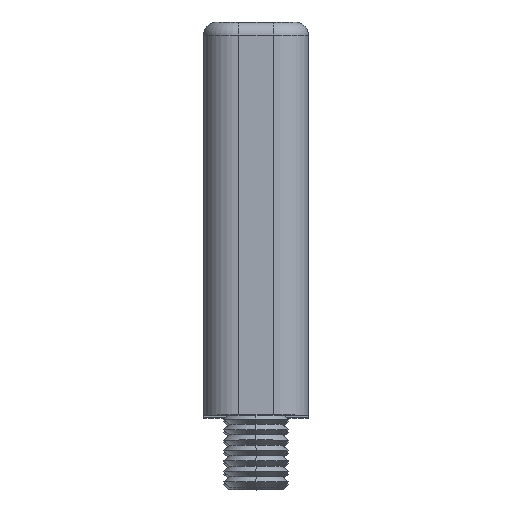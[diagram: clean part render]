
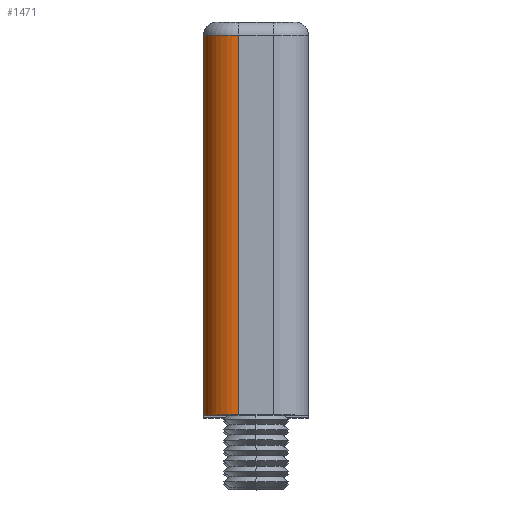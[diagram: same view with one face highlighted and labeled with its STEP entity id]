
A CAD part, top view. The second image highlights one B-rep face of the part: STEP entity #1471.
In plain terms, the highlighted cylindrical face has radius 2.667 mm (diameter 5.333 mm), a partial arc.
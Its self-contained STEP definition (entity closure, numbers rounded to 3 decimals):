
#460 = ORIENTED_EDGE ( 'NONE', *, *, #1152, .T. ) ;
#474 = CARTESIAN_POINT ( 'NONE',  ( -7.5, 29., -1.333 ) ) ;
#518 = VERTEX_POINT ( 'NONE', #5470 ) ;
#649 = ORIENTED_EDGE ( 'NONE', *, *, #1644, .T. ) ;
#757 = FACE_OUTER_BOUND ( 'NONE', #3539, .T. ) ;
#797 = DIRECTION ( 'NONE',  ( 0., 1., 0. ) ) ;
#850 = VECTOR ( 'NONE', #3913, 1000. ) ;
#1152 = EDGE_CURVE ( 'NONE', #2372, #518, #4061, .T. ) ;
#1161 = AXIS2_PLACEMENT_3D ( 'NONE', #2669, #797, #4013 ) ;
#1288 = ORIENTED_EDGE ( 'NONE', *, *, #5301, .T. ) ;
#1471 = ADVANCED_FACE ( 'NONE', ( #757 ), #2768, .T. ) ;
#1644 = EDGE_CURVE ( 'NONE', #3623, #2372, #3561, .T. ) ;
#2093 = DIRECTION ( 'NONE',  ( 0., 0., -1. ) ) ;
#2151 = DIRECTION ( 'NONE',  ( 0., -1., 0. ) ) ;
#2372 = VERTEX_POINT ( 'NONE', #2447 ) ;
#2447 = CARTESIAN_POINT ( 'NONE',  ( -4.833, 0., -4. ) ) ;
#2505 = CARTESIAN_POINT ( 'NONE',  ( -7.5, 30., -1.333 ) ) ;
#2514 = DIRECTION ( 'NONE',  ( 0., 0., 1. ) ) ;
#2669 = CARTESIAN_POINT ( 'NONE',  ( -4.833, 0., -1.333 ) ) ;
#2768 = CYLINDRICAL_SURFACE ( 'NONE', #5811, 2.667 ) ;
#3518 = AXIS2_PLACEMENT_3D ( 'NONE', #3540, #4381, #2514 ) ;
#3539 = EDGE_LOOP ( 'NONE', ( #5861, #1288, #649, #460 ) ) ;
#3540 = CARTESIAN_POINT ( 'NONE',  ( -4.833, 29., -1.333 ) ) ;
#3561 = LINE ( 'NONE', #5465, #4544 ) ;
#3623 = VERTEX_POINT ( 'NONE', #5075 ) ;
#3728 = CIRCLE ( 'NONE', #3518, 2.667 ) ;
#3913 = DIRECTION ( 'NONE',  ( 0., -1., 0. ) ) ;
#4013 = DIRECTION ( 'NONE',  ( 0., 0., 1. ) ) ;
#4061 = CIRCLE ( 'NONE', #1161, 2.667 ) ;
#4220 = LINE ( 'NONE', #2505, #850 ) ;
#4372 = EDGE_CURVE ( 'NONE', #4910, #518, #4220, .T. ) ;
#4381 = DIRECTION ( 'NONE',  ( 0., -1., 0. ) ) ;
#4544 = VECTOR ( 'NONE', #2151, 1000. ) ;
#4801 = CARTESIAN_POINT ( 'NONE',  ( -4.833, 30., -1.333 ) ) ;
#4826 = DIRECTION ( 'NONE',  ( 0., -1., 0. ) ) ;
#4910 = VERTEX_POINT ( 'NONE', #474 ) ;
#5075 = CARTESIAN_POINT ( 'NONE',  ( -4.833, 29., -4. ) ) ;
#5301 = EDGE_CURVE ( 'NONE', #4910, #3623, #3728, .T. ) ;
#5465 = CARTESIAN_POINT ( 'NONE',  ( -4.833, 30., -4. ) ) ;
#5470 = CARTESIAN_POINT ( 'NONE',  ( -7.5, 0., -1.333 ) ) ;
#5811 = AXIS2_PLACEMENT_3D ( 'NONE', #4801, #4826, #2093 ) ;
#5861 = ORIENTED_EDGE ( 'NONE', *, *, #4372, .F. ) ;
